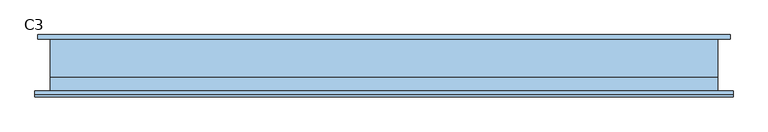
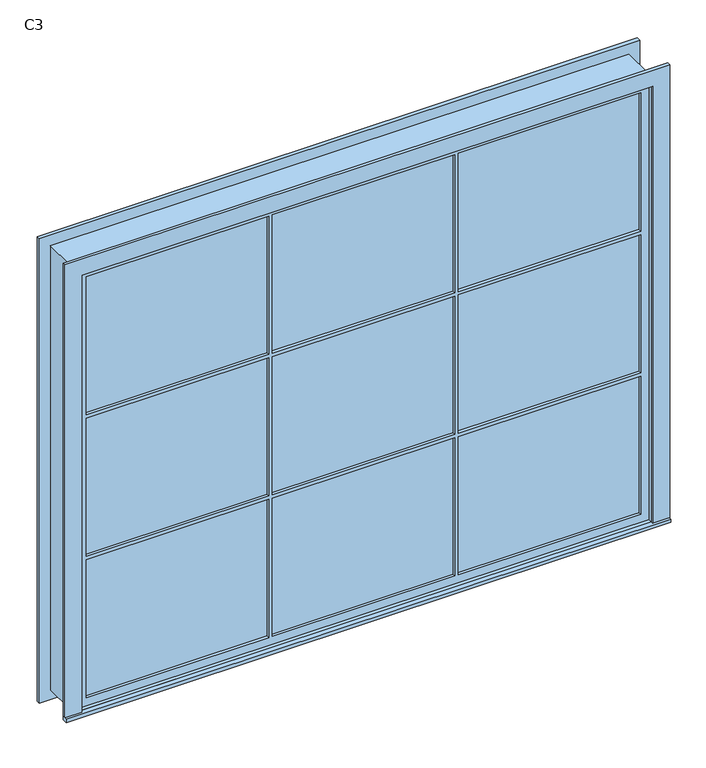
"""IFC4 building model written with IfcOpenShell, lengths in millimetres: window geometry, 单扇平开窗2 - 带贴面 : C3."""

from ifc_helpers import new_model, si_unit, frame, origin, place, context, project, spatial, polyline, outline, extrude, source, transform, mapped, element, save


def c3_0cb914d8(model_context):
    return source(origin(), model_context, "Body", "SweptSolid", [
        extrude(outline(polyline([(504.8666667, -84.125), (504.8666667, -71.425), (1476.5, -71.425), (1476.5, -84.125), (504.8666667, -84.125)])), frame((0.0, 0.0, 2558.2), z_axis=(0.0, 0.0, 1.0), x_axis=(1.0, 0.0, 0.0)), (0.0, 0.0, 1.0), 778.3),
        extrude(outline(polyline([(-485.8166667, -84.125), (-485.8166667, -71.425), (485.8166667, -71.425), (485.8166667, -84.125), (-485.8166667, -84.125)])), frame((0.0, 0.0, 2558.2), z_axis=(0.0, 0.0, 1.0), x_axis=(1.0, 0.0, 0.0)), (0.0, 0.0, 1.0), 778.3),
        extrude(outline(polyline([(-1476.5, -84.125), (-1476.5, -71.425), (-504.8666667, -71.425), (-504.8666667, -84.125), (-1476.5, -84.125)])), frame((0.0, 0.0, 2558.2), z_axis=(0.0, 0.0, 1.0), x_axis=(1.0, 0.0, 0.0)), (0.0, 0.0, 1.0), 778.3),
        extrude(outline(polyline([(-1476.5, -84.125), (-1476.5, -71.425), (-504.8666667, -71.425), (-504.8666667, -84.125), (-1476.5, -84.125)])), frame((0.0, 0.0, 1760.85), z_axis=(0.0, 0.0, 1.0), x_axis=(1.0, 0.0, 0.0)), (0.0, 0.0, 1.0), 778.3),
        extrude(outline(polyline([(-485.8166667, -84.125), (-485.8166667, -71.425), (485.8166667, -71.425), (485.8166667, -84.125), (-485.8166667, -84.125)])), frame((0.0, 0.0, 1760.85), z_axis=(0.0, 0.0, 1.0), x_axis=(1.0, 0.0, 0.0)), (0.0, 0.0, 1.0), 778.3),
        extrude(outline(polyline([(504.8666667, -84.125), (504.8666667, -71.425), (1476.5, -71.425), (1476.5, -84.125), (504.8666667, -84.125)])), frame((0.0, 0.0, 1760.85), z_axis=(0.0, 0.0, 1.0), x_axis=(1.0, 0.0, 0.0)), (0.0, 0.0, 1.0), 778.3),
        extrude(outline(polyline([(504.8666667, -84.125), (504.8666667, -71.425), (1476.5, -71.425), (1476.5, -84.125), (504.8666667, -84.125)])), frame((0.0, 0.0, 963.5), z_axis=(0.0, 0.0, 1.0), x_axis=(1.0, 0.0, 0.0)), (0.0, 0.0, 1.0), 778.3),
        extrude(outline(polyline([(-485.8166667, -84.125), (-485.8166667, -71.425), (485.8166667, -71.425), (485.8166667, -84.125), (-485.8166667, -84.125)])), frame((0.0, 0.0, 963.5), z_axis=(0.0, 0.0, 1.0), x_axis=(1.0, 0.0, 0.0)), (0.0, 0.0, 1.0), 778.3),
        extrude(outline(polyline([(-1476.5, -84.125), (-1476.5, -71.425), (-504.8666667, -71.425), (-504.8666667, -84.125), (-1476.5, -84.125)])), frame((0.0, 0.0, 963.5), z_axis=(0.0, 0.0, 1.0), x_axis=(1.0, 0.0, 0.0)), (0.0, 0.0, 1.0), 778.3),
        extrude(outline(polyline([(3380.95, -1520.95), (919.05, -1520.95), (919.05, 1520.95), (3380.95, 1520.95), (3380.95, -1520.95)]), holes=[polyline([(3336.5, -504.8666667), (2558.2, -504.8666667), (2558.2, -1476.5), (3336.5, -1476.5), (3336.5, -504.8666667)]), polyline([(2539.15, -504.8666667), (1760.85, -504.8666667), (1760.85, -1476.5), (2539.15, -1476.5), (2539.15, -504.8666667)]), polyline([(1741.8, -504.8666667), (963.5, -504.8666667), (963.5, -1476.5), (1741.8, -1476.5), (1741.8, -504.8666667)]), polyline([(3336.5, 485.8166667), (2558.2, 485.8166667), (2558.2, -485.8166667), (3336.5, -485.8166667), (3336.5, 485.8166667)]), polyline([(2539.15, 485.8166667), (1760.85, 485.8166667), (1760.85, -485.8166667), (2539.15, -485.8166667), (2539.15, 485.8166667)]), polyline([(1741.8, 485.8166667), (963.5, 485.8166667), (963.5, -485.8166667), (1741.8, -485.8166667), (1741.8, 485.8166667)]), polyline([(3336.5, 1476.5), (2558.2, 1476.5), (2558.2, 504.8666667), (3336.5, 504.8666667), (3336.5, 1476.5)]), polyline([(2539.15, 1476.5), (1760.85, 1476.5), (1760.85, 504.8666667), (2539.15, 504.8666667), (2539.15, 1476.5)]), polyline([(1741.8, 1476.5), (963.5, 1476.5), (963.5, 504.8666667), (1741.8, 504.8666667), (1741.8, 1476.5)])]), frame((0.0, -100.0, 0.0), z_axis=(0.0, 1.0, 0.0), x_axis=(0.0, 0.0, 1.0)), (0.0, 0.0, 1.0), 44.45),
        extrude(outline(polyline([(3400.0, -1540.0), (900.0, -1540.0), (900.0, 1540.0), (3400.0, 1540.0), (3400.0, -1540.0)]), holes=[polyline([(3368.25, -1508.25), (3368.25, 1508.25), (931.75, 1508.25), (931.75, -1508.25), (3368.25, -1508.25)])]), frame((0.0, -55.55, 0.0), z_axis=(0.0, 1.0, 0.0), x_axis=(0.0, 0.0, 1.0)), (0.0, 0.0, 1.0), 175.55),
        extrude(outline(polyline([(3400.0, 1540.0), (3400.0, -1540.0), (900.0, -1540.0), (900.0, 1540.0), (3400.0, 1540.0)]), holes=[polyline([(3380.95, 1520.95), (919.05, 1520.95), (919.05, -1520.95), (3380.95, -1520.95), (3380.95, 1520.95)])]), frame((0.0, -120.0, 0.0), z_axis=(0.0, 1.0, 0.0), x_axis=(0.0, 0.0, 1.0)), (0.0, 0.0, 1.0), 64.45),
        extrude(outline(polyline([(-1610.95, -147.7), (-1610.95, -120.0), (1610.95, -120.0), (1610.95, -147.7), (-1610.95, -147.7)])), frame((0.0, 0.0, 900.0), z_axis=(0.0, 0.0, 1.0), x_axis=(1.0, 0.0, 0.0)), (0.0, 0.0, 1.0), 19.05),
        extrude(outline(polyline([(3380.95, -1520.95), (3380.95, 1520.95), (919.05, 1520.95), (919.05, 1610.95), (3470.95, 1610.95), (3470.95, -1610.95), (919.05, -1610.95), (919.05, -1520.95), (3380.95, -1520.95)])), frame((0.0, -135.0, 0.0), z_axis=(0.0, 1.0, 0.0), x_axis=(0.0, 0.0, 1.0)), (0.0, 0.0, 1.0), 15.0),
        extrude(outline(polyline([(3458.25, 1598.25), (3458.25, -1598.25), (841.75, -1598.25), (841.75, 1598.25), (3458.25, 1598.25)]), holes=[polyline([(3368.25, 1508.25), (931.75, 1508.25), (931.75, -1508.25), (3368.25, -1508.25), (3368.25, 1508.25)])]), frame((0.0, 120.0, 0.0), z_axis=(0.0, 1.0, 0.0), x_axis=(0.0, 0.0, 1.0)), (0.0, 0.0, 1.0), 20.0),
    ])


if __name__ == "__main__":
    model = new_model("IFC4")
    model_context = context("Model", 3, world=origin())
    ifc_project = project(units=[si_unit("LENGTHUNIT", "METRE", prefix="MILLI")], contexts=[model_context])
    site = spatial("IfcSite", under=ifc_project)
    building = spatial("IfcBuilding", under=site)
    placement = place(None, origin())
    c3_shape = c3_0cb914d8(model_context)
    element("IfcWindow", 1, ObjectType="单扇平开窗2 - 带贴面 : C3", at=placement, inside=building, context=model_context, shape_type="MappedRepresentation", body=[
        mapped(c3_shape, transform((0.0, 0.0, 0.0), x_axis=(1.0, 0.0, 0.0), y_axis=(0.0, 1.0, 0.0), z_axis=(0.0, 0.0, 1.0))),
    ])
    save(model, "model.ifc")
